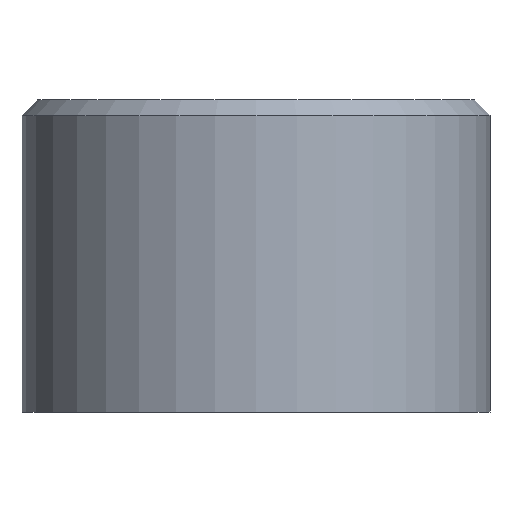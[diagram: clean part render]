
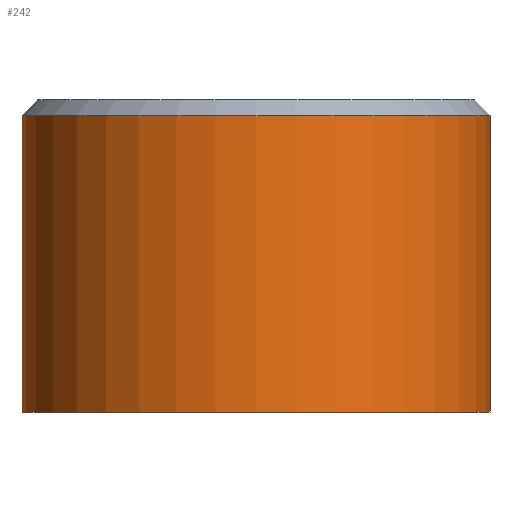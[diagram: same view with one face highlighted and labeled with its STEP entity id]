
A CAD part, front view. The second image highlights one B-rep face of the part: STEP entity #242.
In plain terms, the highlighted cylindrical face has radius 30 mm (diameter 60 mm), a full revolution.
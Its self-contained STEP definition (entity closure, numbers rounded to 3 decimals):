
#40=FACE_BOUND('',#93,.T.);
#46=LINE('',#532,#56);
#56=VECTOR('',#338,30.);
#66=CYLINDRICAL_SURFACE('',#288,30.);
#74=FACE_OUTER_BOUND('',#92,.T.);
#92=EDGE_LOOP('',(#191,#192,#193,#194,#195));
#93=EDGE_LOOP('',(#196));
#115=B_SPLINE_CURVE_WITH_KNOTS('',3,(#507,#508,#509,#510,#511,#512,#513,
#514,#515,#516,#517,#518,#519,#520,#521),.UNSPECIFIED.,.T.,.F.,(4,1,1,1,
1,1,1,1,1,1,1,1,4),(-5.55,-5.323,-5.097,
-4.87,-4.644,-4.191,-4.04,
-3.737,-3.284,-3.058,-2.831,
-2.605,-2.378),.UNSPECIFIED.);
#118=CIRCLE('',#289,30.);
#119=CIRCLE('',#290,30.);
#120=CIRCLE('',#291,30.);
#132=VERTEX_POINT('',#484);
#136=VERTEX_POINT('',#527);
#137=VERTEX_POINT('',#528);
#138=VERTEX_POINT('',#531);
#155=EDGE_CURVE('',#132,#132,#115,.T.);
#158=EDGE_CURVE('',#136,#137,#118,.T.);
#159=EDGE_CURVE('',#137,#136,#119,.T.);
#160=EDGE_CURVE('',#137,#138,#46,.T.);
#161=EDGE_CURVE('',#138,#138,#120,.T.);
#191=ORIENTED_EDGE('',*,*,#158,.F.);
#192=ORIENTED_EDGE('',*,*,#159,.F.);
#193=ORIENTED_EDGE('',*,*,#160,.T.);
#194=ORIENTED_EDGE('',*,*,#161,.F.);
#195=ORIENTED_EDGE('',*,*,#160,.F.);
#196=ORIENTED_EDGE('',*,*,#155,.F.);
#242=ADVANCED_FACE('',(#74,#40),#66,.T.);
#288=AXIS2_PLACEMENT_3D('',#526,#332,#333);
#289=AXIS2_PLACEMENT_3D('',#529,#334,#335);
#290=AXIS2_PLACEMENT_3D('',#530,#336,#337);
#291=AXIS2_PLACEMENT_3D('',#533,#339,#340);
#332=DIRECTION('center_axis',(0.,0.,1.));
#333=DIRECTION('ref_axis',(1.,0.,0.));
#334=DIRECTION('center_axis',(0.,0.,1.));
#335=DIRECTION('ref_axis',(-1.,0.,0.));
#336=DIRECTION('center_axis',(0.,0.,1.));
#337=DIRECTION('ref_axis',(-1.,0.,0.));
#338=DIRECTION('',(0.,0.,-1.));
#339=DIRECTION('center_axis',(0.,0.,-1.));
#340=DIRECTION('ref_axis',(1.,0.,0.));
#484=CARTESIAN_POINT('',(0.,30.,23.25));
#507=CARTESIAN_POINT('Ctrl Pts',(0.,30.,23.25));
#508=CARTESIAN_POINT('Ctrl Pts',(-0.964,30.,23.25));
#509=CARTESIAN_POINT('Ctrl Pts',(-2.89,29.901,23.714));
#510=CARTESIAN_POINT('Ctrl Pts',(-5.196,29.565,25.647));
#511=CARTESIAN_POINT('Ctrl Pts',(-6.476,29.293,28.434));
#512=CARTESIAN_POINT('Ctrl Pts',(-6.493,29.292,32.614));
#513=CARTESIAN_POINT('Ctrl Pts',(-4.089,29.797,35.778));
#514=CARTESIAN_POINT('Ctrl Pts',(-0.355,30.051,36.977));
#515=CARTESIAN_POINT('Ctrl Pts',(3.64,29.901,36.356));
#516=CARTESIAN_POINT('Ctrl Pts',(6.499,29.286,32.615));
#517=CARTESIAN_POINT('Ctrl Pts',(6.478,29.293,28.437));
#518=CARTESIAN_POINT('Ctrl Pts',(5.197,29.565,25.648));
#519=CARTESIAN_POINT('Ctrl Pts',(2.891,29.901,23.714));
#520=CARTESIAN_POINT('Ctrl Pts',(0.964,30.,23.25));
#521=CARTESIAN_POINT('Ctrl Pts',(0.,30.,23.25));
#526=CARTESIAN_POINT('Origin',(0.,0.,20.));
#527=CARTESIAN_POINT('',(30.,0.,38.));
#528=CARTESIAN_POINT('',(-30.,0.,38.));
#529=CARTESIAN_POINT('Origin',(0.,0.,38.));
#530=CARTESIAN_POINT('Origin',(0.,0.,38.));
#531=CARTESIAN_POINT('',(-30.,0.,0.));
#532=CARTESIAN_POINT('',(-30.,0.,20.));
#533=CARTESIAN_POINT('Origin',(0.,0.,0.));
